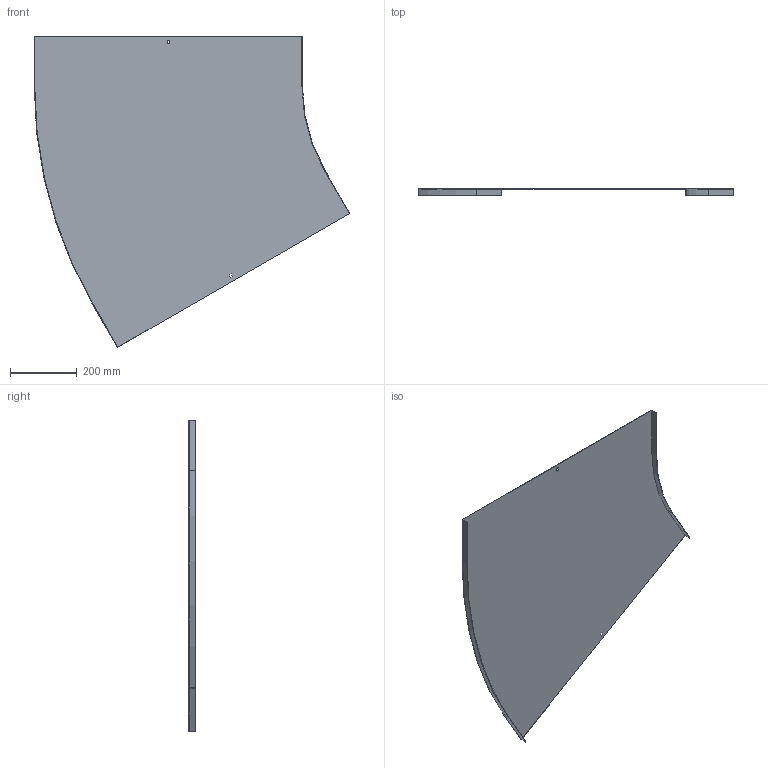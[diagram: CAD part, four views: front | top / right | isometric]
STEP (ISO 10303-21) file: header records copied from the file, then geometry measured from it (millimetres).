
FILE_DESCRIPTION (( 'STEP AP214' ), '1' );
FILE_NAME ('12N5R800.step', '2025-02-21T10:48:37', ( '' ), ( '' ), 'SwSTEP 2.0', 'SolidWorks 2023', '' );
FILE_SCHEMA (( 'AUTOMOTIVE_DESIGN' ));
Length unit declared in the file: millimetre
Products named in the file (1): 12N5R800
Bounding box: 944.79 x 20 x 930.65 mm (x, y, z)
Volume: 971585.5 mm3; surface area: 1300374.1 mm2
Topology: 1 solids, 1 shells, 26 faces, 72 edges, 48 vertices
Faces by surface type: plane 22, cylinder 4
Entity records: 855 total; most frequent: CARTESIAN_POINT 147, ORIENTED_EDGE 144, DIRECTION 134, EDGE_CURVE 72, LINE 64, VECTOR 64, VERTEX_POINT 48, AXIS2_PLACEMENT_3D 35
